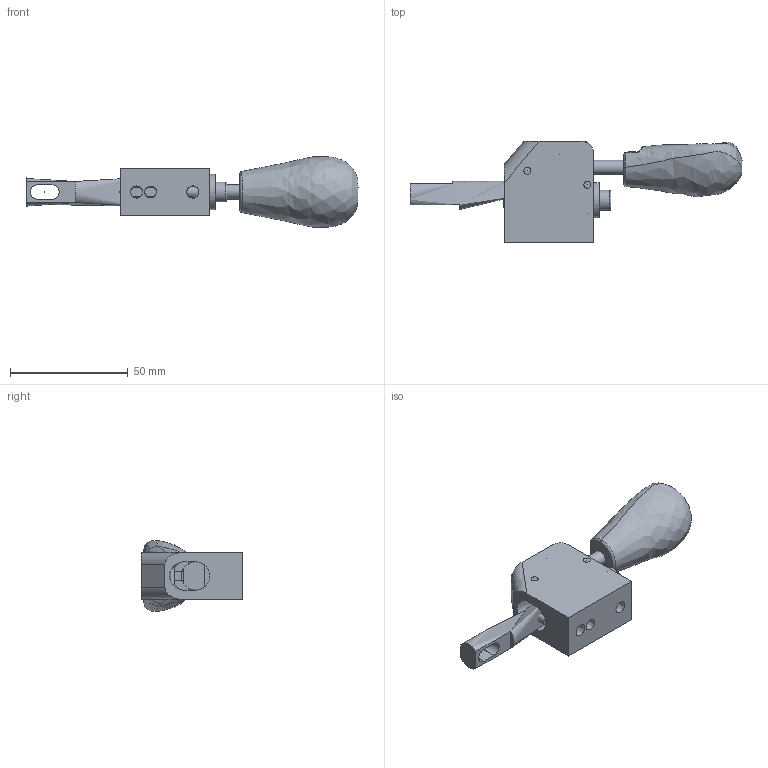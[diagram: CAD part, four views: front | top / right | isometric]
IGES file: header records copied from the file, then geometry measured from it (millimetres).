
Global section: file name: SUD-20ST-CLAMP; native system: Autodesk Inventor 2019; preprocessor: unknown; author: 桶田 勝弘,,11,0, ; organization: 20171007.081954; date: 20240514.165136; units: millimetre
Bounding box: 141.25 x 43 x 30.18 mm (x, y, z)
Volume: 50620.6 mm3; surface area: 21322.8 mm2
Topology: 10 solids, 10 shells, 229 faces, 618 edges, 413 vertices
Faces by surface type: bspline 229
